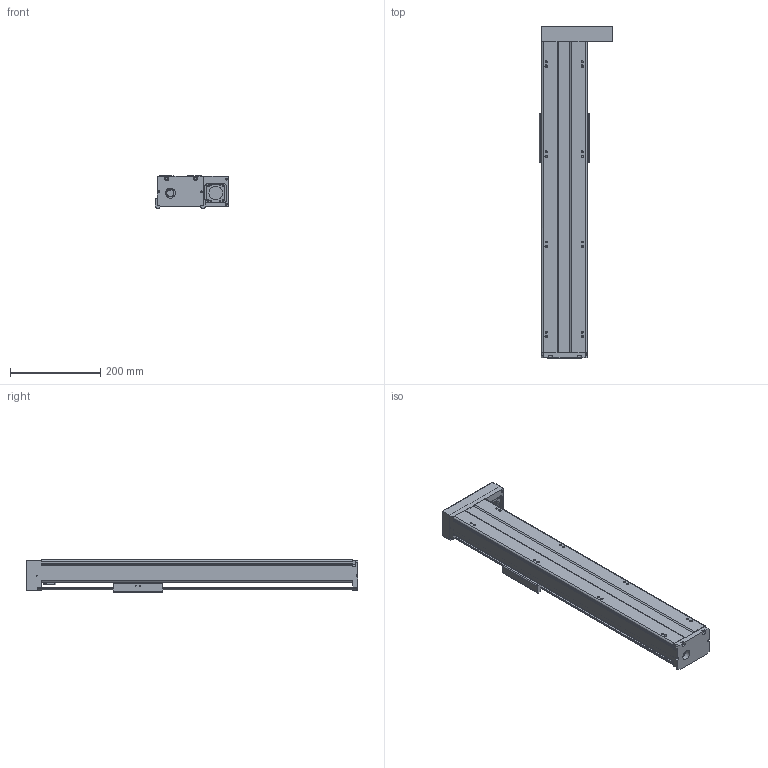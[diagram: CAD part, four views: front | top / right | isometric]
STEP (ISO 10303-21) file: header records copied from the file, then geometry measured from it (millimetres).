
FILE_DESCRIPTION(/* description */ (''),/* implementation_level */ '2;1');
FILE_NAME(/* name */ 'TKA100-FR-500_asm1.stp',/* time_stamp */ '2016-05-17T15:35:21+08:00',/* author */ (''),/* organization */ (''),/* preprocessor_version */ 'ST-DEVELOPER v15',/* originating_system */ 'SIEMENS PLM Software NX 8.5',/* authorisation */ '');
FILE_SCHEMA (('AUTOMOTIVE_DESIGN { 1 0 10303 214 3 1 1 1 }'));
Length unit declared in the file: millimetre
Products named in the file (3): 200-2; 200-1; TKA100-FR-500_asm1
Assembly tree (2 placements, depth 2):
  TKA100-FR-500_asm1
    200-1
    200-2
Bounding box: 162 x 736 x 71 mm (x, y, z)
Volume: 1664278.7 mm3; surface area: 568577.3 mm2
Topology: 2 solids, 16 shells, 788 faces, 2043 edges, 1332 vertices
Faces by surface type: plane 320, cylinder 295, cone 119, torus 28, bspline 26
Full cylindrical faces by diameter (mm): 2.5 x6, 2.6 x8, 3.3 x11, 3.4 x4, 3.8 x8, 4.2 x17, 4.3 x4, 4.5 x6, 5 x2, 5.5 x16, 6.6 x4, 8 x4, 9 x6, 10 x9, 11 x4, 12 x6, 15.3 x1, 16 x1, 22 x1, 24 x1, 28 x2, 30 x1, 33 x1
Entity records: 28780 total; most frequent: CARTESIAN_POINT 10534, DIRECTION 3741, ORIENTED_EDGE 3552, EDGE_CURVE 1776, AXIS2_PLACEMENT_3D 1473, VERTEX_POINT 1254, EDGE_LOOP 1075, LINE 795
